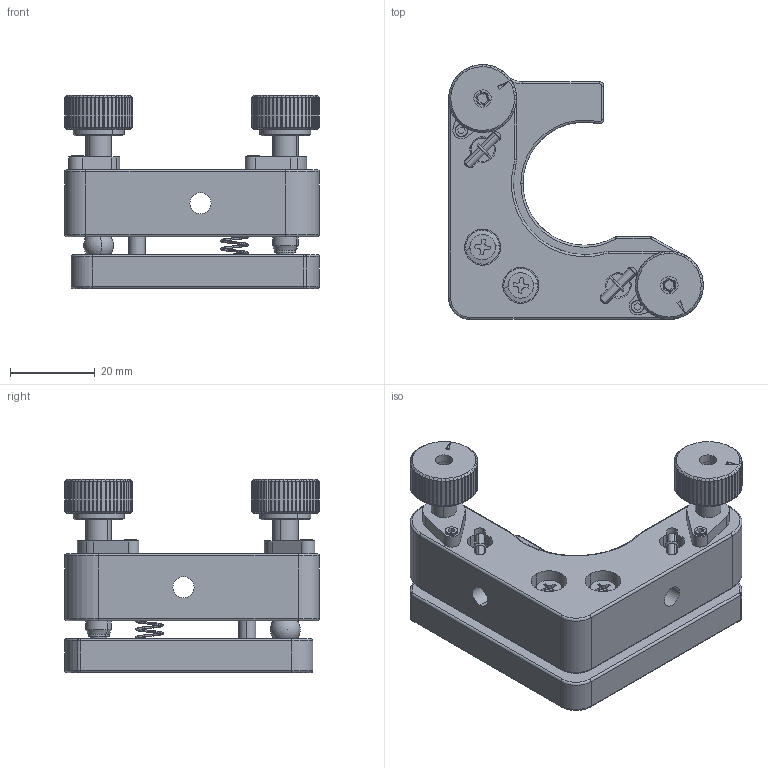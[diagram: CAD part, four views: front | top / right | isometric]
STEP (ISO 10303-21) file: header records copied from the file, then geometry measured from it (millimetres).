
FILE_DESCRIPTION (( 'STEP AP203' ), '1' );
FILE_NAME ('M-TNC-1.2L-HOC.STEP', '2020-09-02T06:01:39', ( '匠星' ), ( '' ), 'SwSTEP 2.0', 'SolidWorks 2019', '' );
FILE_SCHEMA (( 'CONFIG_CONTROL_DESIGN' ));
Length unit declared in the file: millimetre
Products named in the file (1): M-TNC-1.2L-HOC
Bounding box: 60 x 60 x 45.5 mm (x, y, z)
Surface area: 20017.1 mm2 (no closed solid volume)
Topology: 0 solids, 21 shells, 1022 faces, 2589 edges, 1637 vertices
Faces by surface type: cylinder 428, plane 413, torus 85, cone 68, sphere 22, bspline 6
Entity records: 35746 total; most frequent: CARTESIAN_POINT 11518, ORIENTED_EDGE 5098, DIRECTION 5063, EDGE_CURVE 2552, AXIS2_PLACEMENT_3D 2009, VERTEX_POINT 1630, EDGE_LOOP 1110, VECTOR 1045
